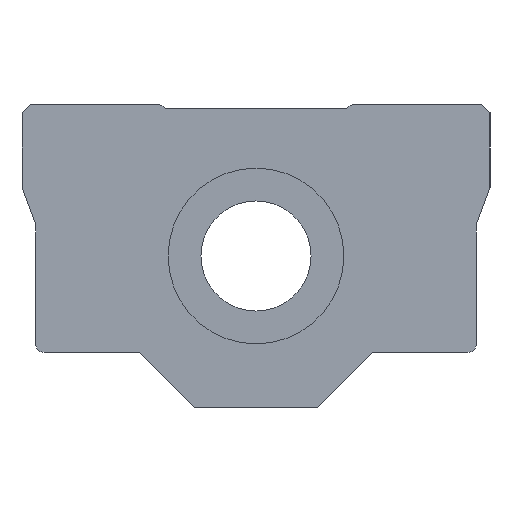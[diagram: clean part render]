
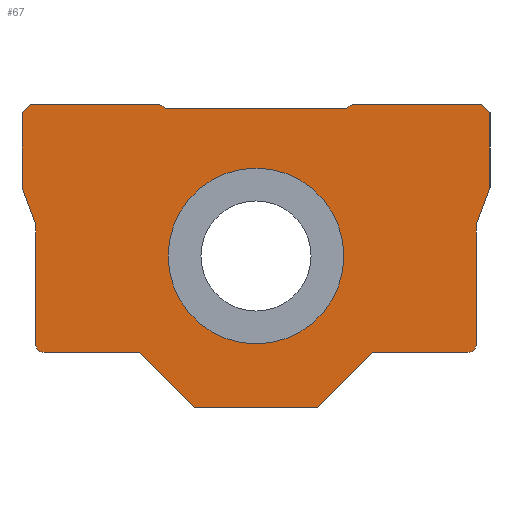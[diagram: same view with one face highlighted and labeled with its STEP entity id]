
A CAD part, left-side view. The second image highlights one B-rep face of the part: STEP entity #67.
In plain terms, the highlighted planar face has unit normal (-1, 0, 0).
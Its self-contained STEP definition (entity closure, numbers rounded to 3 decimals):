
#67 = ADVANCED_FACE( '', ( #166, #167 ), #168, .F. );
#166 = FACE_OUTER_BOUND( '', #317, .T. );
#167 = FACE_BOUND( '', #318, .T. );
#168 = PLANE( '', #319 );
#317 = EDGE_LOOP( '', ( #472, #473, #474, #475, #476, #477, #478, #479, #480, #481, #482, #483, #484, #485, #486, #487, #488, #489, #490, #491 ) );
#318 = EDGE_LOOP( '', ( #492 ) );
#319 = AXIS2_PLACEMENT_3D( '', #493, #494, #495 );
#472 = ORIENTED_EDGE( '', *, *, #786, .F. );
#473 = ORIENTED_EDGE( '', *, *, #787, .F. );
#474 = ORIENTED_EDGE( '', *, *, #788, .F. );
#475 = ORIENTED_EDGE( '', *, *, #789, .F. );
#476 = ORIENTED_EDGE( '', *, *, #783, .F. );
#477 = ORIENTED_EDGE( '', *, *, #790, .F. );
#478 = ORIENTED_EDGE( '', *, *, #791, .F. );
#479 = ORIENTED_EDGE( '', *, *, #792, .F. );
#480 = ORIENTED_EDGE( '', *, *, #793, .F. );
#481 = ORIENTED_EDGE( '', *, *, #794, .F. );
#482 = ORIENTED_EDGE( '', *, *, #795, .T. );
#483 = ORIENTED_EDGE( '', *, *, #796, .T. );
#484 = ORIENTED_EDGE( '', *, *, #797, .T. );
#485 = ORIENTED_EDGE( '', *, *, #798, .F. );
#486 = ORIENTED_EDGE( '', *, *, #799, .F. );
#487 = ORIENTED_EDGE( '', *, *, #800, .F. );
#488 = ORIENTED_EDGE( '', *, *, #801, .F. );
#489 = ORIENTED_EDGE( '', *, *, #802, .F. );
#490 = ORIENTED_EDGE( '', *, *, #803, .F. );
#491 = ORIENTED_EDGE( '', *, *, #778, .F. );
#492 = ORIENTED_EDGE( '', *, *, #804, .T. );
#493 = CARTESIAN_POINT( '', ( 0., 0., 0. ) );
#494 = DIRECTION( '', ( 1., 0., 0. ) );
#495 = DIRECTION( '', ( 0., 1., 0. ) );
#778 = EDGE_CURVE( '', #902, #904, #905, .T. );
#783 = EDGE_CURVE( '', #911, #913, #914, .T. );
#786 = EDGE_CURVE( '', #917, #902, #918, .T. );
#787 = EDGE_CURVE( '', #919, #917, #920, .T. );
#788 = EDGE_CURVE( '', #921, #919, #922, .T. );
#789 = EDGE_CURVE( '', #913, #921, #923, .T. );
#790 = EDGE_CURVE( '', #924, #911, #925, .T. );
#791 = EDGE_CURVE( '', #926, #924, #927, .T. );
#792 = EDGE_CURVE( '', #928, #926, #929, .T. );
#793 = EDGE_CURVE( '', #930, #928, #931, .T. );
#794 = EDGE_CURVE( '', #932, #930, #933, .T. );
#795 = EDGE_CURVE( '', #932, #934, #935, .T. );
#796 = EDGE_CURVE( '', #934, #936, #937, .T. );
#797 = EDGE_CURVE( '', #936, #938, #939, .T. );
#798 = EDGE_CURVE( '', #940, #938, #941, .T. );
#799 = EDGE_CURVE( '', #942, #940, #943, .T. );
#800 = EDGE_CURVE( '', #944, #942, #945, .T. );
#801 = EDGE_CURVE( '', #946, #944, #947, .T. );
#802 = EDGE_CURVE( '', #948, #946, #949, .T. );
#803 = EDGE_CURVE( '', #904, #948, #950, .T. );
#804 = EDGE_CURVE( '', #951, #951, #952, .T. );
#902 = VERTEX_POINT( '', #1086 );
#904 = VERTEX_POINT( '', #1089 );
#905 = LINE( '', #1090, #1091 );
#911 = VERTEX_POINT( '', #1098 );
#913 = VERTEX_POINT( '', #1101 );
#914 = CIRCLE( '', #1102, 0.6 );
#917 = VERTEX_POINT( '', #1106 );
#918 = LINE( '', #1107, #1108 );
#919 = VERTEX_POINT( '', #1109 );
#920 = LINE( '', #1110, #1111 );
#921 = VERTEX_POINT( '', #1112 );
#922 = LINE( '', #1113, #1114 );
#923 = LINE( '', #1115, #1116 );
#924 = VERTEX_POINT( '', #1117 );
#925 = LINE( '', #1118, #1119 );
#926 = VERTEX_POINT( '', #1120 );
#927 = LINE( '', #1121, #1122 );
#928 = VERTEX_POINT( '', #1123 );
#929 = LINE( '', #1124, #1125 );
#930 = VERTEX_POINT( '', #1126 );
#931 = LINE( '', #1127, #1128 );
#932 = VERTEX_POINT( '', #1129 );
#933 = LINE( '', #1130, #1131 );
#934 = VERTEX_POINT( '', #1132 );
#935 = LINE( '', #1133, #1134 );
#936 = VERTEX_POINT( '', #1135 );
#937 = LINE( '', #1136, #1137 );
#938 = VERTEX_POINT( '', #1138 );
#939 = LINE( '', #1139, #1140 );
#940 = VERTEX_POINT( '', #1141 );
#941 = LINE( '', #1142, #1143 );
#942 = VERTEX_POINT( '', #1144 );
#943 = LINE( '', #1145, #1146 );
#944 = VERTEX_POINT( '', #1147 );
#945 = LINE( '', #1148, #1149 );
#946 = VERTEX_POINT( '', #1150 );
#947 = LINE( '', #1151, #1152 );
#948 = VERTEX_POINT( '', #1153 );
#949 = LINE( '', #1154, #1155 );
#950 = CIRCLE( '', #1156, 0.6 );
#951 = VERTEX_POINT( '', #1157 );
#952 = CIRCLE( '', #1158, 6.38 );
#1086 = CARTESIAN_POINT( '', ( 0., 8.485, -7. ) );
#1089 = CARTESIAN_POINT( '', ( 0., 15.4, -7. ) );
#1090 = CARTESIAN_POINT( '', ( 0., 8.485, -7. ) );
#1091 = VECTOR( '', #1324, 1000. );
#1098 = CARTESIAN_POINT( '', ( 0., -16., -6.4 ) );
#1101 = CARTESIAN_POINT( '', ( 0., -15.4, -7. ) );
#1102 = AXIS2_PLACEMENT_3D( '', #1330, #1331, #1332 );
#1106 = CARTESIAN_POINT( '', ( 0., 4.485, -11. ) );
#1107 = CARTESIAN_POINT( '', ( 0., 7.743, -7.743 ) );
#1108 = VECTOR( '', #1334, 1000. );
#1109 = CARTESIAN_POINT( '', ( 0., -4.485, -11. ) );
#1110 = CARTESIAN_POINT( '', ( 0., -4.485, -11. ) );
#1111 = VECTOR( '', #1335, 1000. );
#1112 = CARTESIAN_POINT( '', ( 0., -8.485, -7. ) );
#1113 = CARTESIAN_POINT( '', ( 0., -7.743, -7.743 ) );
#1114 = VECTOR( '', #1336, 1000. );
#1115 = CARTESIAN_POINT( '', ( 0., -15.4, -7. ) );
#1116 = VECTOR( '', #1337, 1000. );
#1117 = CARTESIAN_POINT( '', ( 0., -16., 2.253 ) );
#1118 = CARTESIAN_POINT( '', ( 0., -16., 2.253 ) );
#1119 = VECTOR( '', #1338, 1000. );
#1120 = CARTESIAN_POINT( '', ( 0., -17., 5. ) );
#1121 = CARTESIAN_POINT( '', ( 0., -17., 5. ) );
#1122 = VECTOR( '', #1339, 1000. );
#1123 = CARTESIAN_POINT( '', ( 0., -17., 10.4 ) );
#1124 = CARTESIAN_POINT( '', ( 0., -17., 10.4 ) );
#1125 = VECTOR( '', #1340, 1000. );
#1126 = CARTESIAN_POINT( '', ( 0., -16.4, 11. ) );
#1127 = CARTESIAN_POINT( '', ( 0., -16.4, 11. ) );
#1128 = VECTOR( '', #1341, 1000. );
#1129 = CARTESIAN_POINT( '', ( 0., -7., 11. ) );
#1130 = CARTESIAN_POINT( '', ( 0., 16.4, 11. ) );
#1131 = VECTOR( '', #1342, 1000. );
#1132 = CARTESIAN_POINT( '', ( 0., -6.5, 10.7 ) );
#1133 = CARTESIAN_POINT( '', ( 0., -1.75, 7.85 ) );
#1134 = VECTOR( '', #1343, 1000. );
#1135 = CARTESIAN_POINT( '', ( 0., 6.5, 10.7 ) );
#1136 = CARTESIAN_POINT( '', ( 0., 3.25, 10.7 ) );
#1137 = VECTOR( '', #1344, 1000. );
#1138 = CARTESIAN_POINT( '', ( 0., 7., 11. ) );
#1139 = CARTESIAN_POINT( '', ( 0., 2., 8. ) );
#1140 = VECTOR( '', #1345, 1000. );
#1141 = CARTESIAN_POINT( '', ( 0., 16.4, 11. ) );
#1142 = CARTESIAN_POINT( '', ( 0., 16.4, 11. ) );
#1143 = VECTOR( '', #1346, 1000. );
#1144 = CARTESIAN_POINT( '', ( 0., 17., 10.4 ) );
#1145 = CARTESIAN_POINT( '', ( 0., 17., 10.4 ) );
#1146 = VECTOR( '', #1347, 1000. );
#1147 = CARTESIAN_POINT( '', ( 0., 17., 5. ) );
#1148 = CARTESIAN_POINT( '', ( 0., 17., 5. ) );
#1149 = VECTOR( '', #1348, 1000. );
#1150 = CARTESIAN_POINT( '', ( 0., 16., 2.253 ) );
#1151 = CARTESIAN_POINT( '', ( 0., 16., 2.253 ) );
#1152 = VECTOR( '', #1349, 1000. );
#1153 = CARTESIAN_POINT( '', ( 0., 16., -6.4 ) );
#1154 = CARTESIAN_POINT( '', ( 0., 16., -6.4 ) );
#1155 = VECTOR( '', #1350, 1000. );
#1156 = AXIS2_PLACEMENT_3D( '', #1351, #1352, #1353 );
#1157 = CARTESIAN_POINT( '', ( 0., 6.38, 0. ) );
#1158 = AXIS2_PLACEMENT_3D( '', #1354, #1355, #1356 );
#1324 = DIRECTION( '', ( 0., 1., 0. ) );
#1330 = CARTESIAN_POINT( '', ( 0., -15.4, -6.4 ) );
#1331 = DIRECTION( '', ( 1., 0., 0. ) );
#1332 = DIRECTION( '', ( 0., -1., 0. ) );
#1334 = DIRECTION( '', ( 0., 0.707, 0.707 ) );
#1335 = DIRECTION( '', ( 0., 1., 0. ) );
#1336 = DIRECTION( '', ( 0., 0.707, -0.707 ) );
#1337 = DIRECTION( '', ( 0., 1., 0. ) );
#1338 = DIRECTION( '', ( 0., 0., -1. ) );
#1339 = DIRECTION( '', ( 0., 0.342, -0.94 ) );
#1340 = DIRECTION( '', ( 0., 0., -1. ) );
#1341 = DIRECTION( '', ( 0., -0.707, -0.707 ) );
#1342 = DIRECTION( '', ( 0., -1., 0. ) );
#1343 = DIRECTION( '', ( 0., 0.857, -0.514 ) );
#1344 = DIRECTION( '', ( 0., 1., 0. ) );
#1345 = DIRECTION( '', ( 0., 0.857, 0.514 ) );
#1346 = DIRECTION( '', ( 0., -1., 0. ) );
#1347 = DIRECTION( '', ( 0., -0.707, 0.707 ) );
#1348 = DIRECTION( '', ( 0., 0., 1. ) );
#1349 = DIRECTION( '', ( 0., 0.342, 0.94 ) );
#1350 = DIRECTION( '', ( 0., 0., 1. ) );
#1351 = CARTESIAN_POINT( '', ( 0., 15.4, -6.4 ) );
#1352 = DIRECTION( '', ( 1., 0., 0. ) );
#1353 = DIRECTION( '', ( 0., 0., -1. ) );
#1354 = CARTESIAN_POINT( '', ( 0., 0., 0. ) );
#1355 = DIRECTION( '', ( 1., 0., 0. ) );
#1356 = DIRECTION( '', ( 0., 1., 0. ) );
